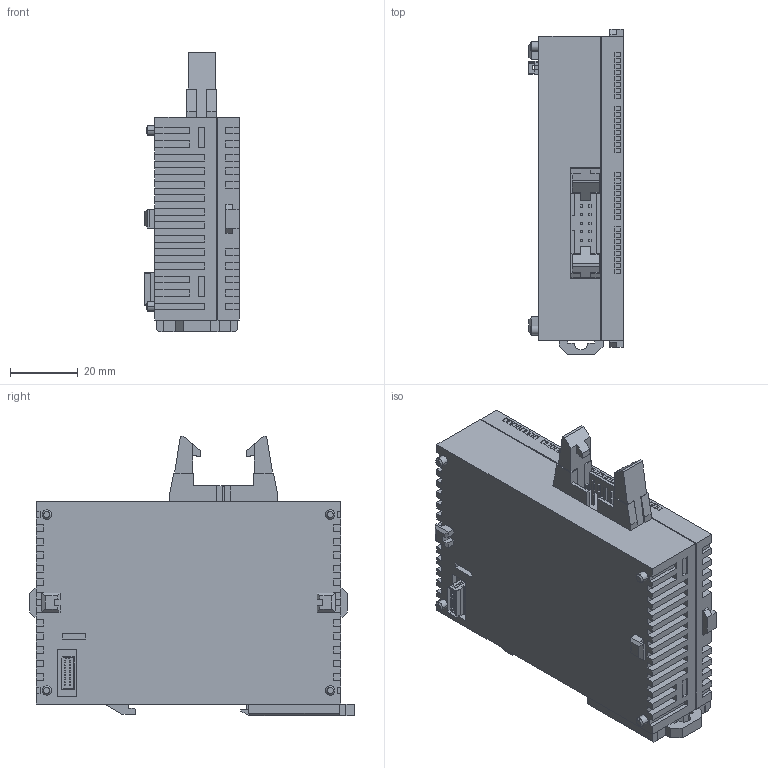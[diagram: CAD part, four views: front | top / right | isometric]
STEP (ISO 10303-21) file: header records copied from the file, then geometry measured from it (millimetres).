
FILE_DESCRIPTION (( 'STEP AP203' ), '1' );
FILE_NAME ('afp0re8yt.STEP', '2013-06-28T05:49:15', ( 'sunx' ), ( 'sunx' ), 'SwSTEP 2.0', 'SolidWorks 2010', '' );
FILE_SCHEMA (( 'CONFIG_CONTROL_DESIGN' ));
Length unit declared in the file: millimetre
Products named in the file (1): afp0re8yt
Bounding box: 28 x 96.05 x 82.7 mm (x, y, z)
Volume: 136268.5 mm3; surface area: 25475.9 mm2
Topology: 1 solids, 1 shells, 833 faces, 2223 edges, 1470 vertices
Faces by surface type: plane 776, cylinder 33, bspline 16, cone 8
Entity records: 25696 total; most frequent: CARTESIAN_POINT 4767, ORIENTED_EDGE 4446, DIRECTION 3941, EDGE_CURVE 2223, VECTOR 2141, LINE 2141, VERTEX_POINT 1470, EDGE_LOOP 919
